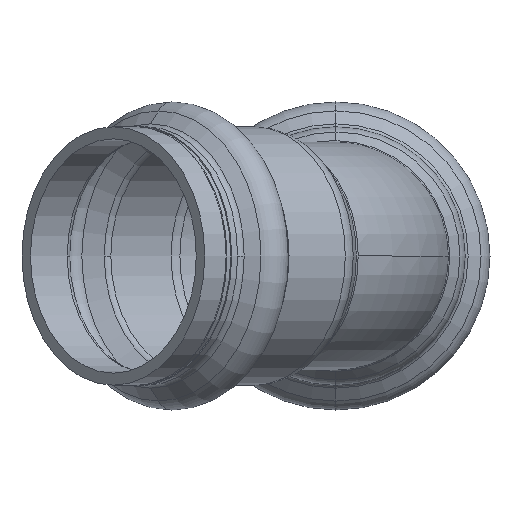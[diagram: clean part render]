
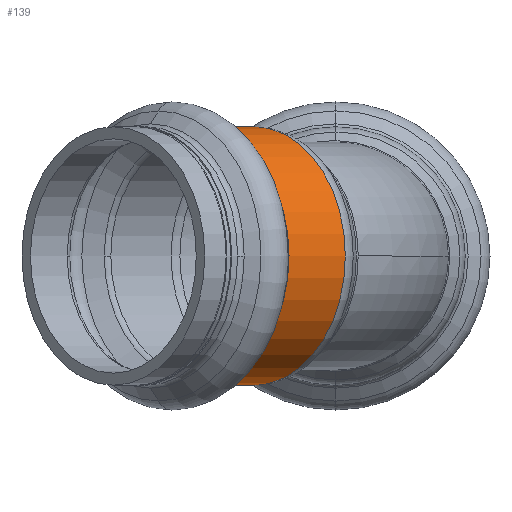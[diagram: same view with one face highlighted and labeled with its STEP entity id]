
A CAD part, left-side view. The second image highlights one B-rep face of the part: STEP entity #139.
In plain terms, the highlighted cylindrical face has radius 15.6 mm (diameter 31.2 mm), a partial arc.
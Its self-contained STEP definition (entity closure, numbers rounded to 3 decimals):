
#24 = DIRECTION ( 'NONE',  ( 0.707, 0.707, 0. ) ) ;
#80 = CYLINDRICAL_SURFACE ( 'NONE', #175, 15.6 ) ;
#139 = ADVANCED_FACE ( 'NONE', ( #2330 ), #80, .T. ) ;
#175 = AXIS2_PLACEMENT_3D ( 'NONE', #475, #504, #468 ) ;
#176 = CARTESIAN_POINT ( 'NONE',  ( -16.692, 16.692, 15.6 ) ) ;
#240 = AXIS2_PLACEMENT_3D ( 'NONE', #2253, #3855, #24 ) ;
#244 = EDGE_CURVE ( 'NONE', #947, #1180, #1969, .T. ) ;
#392 = ORIENTED_EDGE ( 'NONE', *, *, #1685, .T. ) ;
#468 = DIRECTION ( 'NONE',  ( 0., 0., -1. ) ) ;
#475 = CARTESIAN_POINT ( 'NONE',  ( -25.175, 25.175, 0. ) ) ;
#504 = DIRECTION ( 'NONE',  ( -0.707, 0.707, 0. ) ) ;
#591 = AXIS2_PLACEMENT_3D ( 'NONE', #3544, #3548, #3555 ) ;
#644 = ORIENTED_EDGE ( 'NONE', *, *, #1755, .F. ) ;
#669 = CARTESIAN_POINT ( 'NONE',  ( -9.899, 9.899, -15.6 ) ) ;
#904 = ORIENTED_EDGE ( 'NONE', *, *, #244, .F. ) ;
#918 = VERTEX_POINT ( 'NONE', #3065 ) ;
#947 = VERTEX_POINT ( 'NONE', #2463 ) ;
#1180 = VERTEX_POINT ( 'NONE', #669 ) ;
#1198 = CIRCLE ( 'NONE', #591, 15.6 ) ;
#1364 = CARTESIAN_POINT ( 'NONE',  ( -9.899, 9.899, 0. ) ) ;
#1367 = DIRECTION ( 'NONE',  ( 0.707, -0.707, 0. ) ) ;
#1392 = DIRECTION ( 'NONE',  ( 0., 0., -1. ) ) ;
#1466 = VECTOR ( 'NONE', #1721, 1000. ) ;
#1568 = EDGE_CURVE ( 'NONE', #947, #2085, #2252, .T. ) ;
#1598 = ORIENTED_EDGE ( 'NONE', *, *, #1568, .T. ) ;
#1685 = EDGE_CURVE ( 'NONE', #2085, #918, #1198, .T. ) ;
#1718 = CARTESIAN_POINT ( 'NONE',  ( -25.175, 25.175, 15.6 ) ) ;
#1721 = DIRECTION ( 'NONE',  ( -0.707, 0.707, 0. ) ) ;
#1755 = EDGE_CURVE ( 'NONE', #1180, #3407, #2421, .T. ) ;
#1776 = EDGE_CURVE ( 'NONE', #918, #3407, #3230, .T. ) ;
#1969 = CIRCLE ( 'NONE', #3606, 15.6 ) ;
#2085 = VERTEX_POINT ( 'NONE', #176 ) ;
#2252 = LINE ( 'NONE', #1718, #1466 ) ;
#2253 = CARTESIAN_POINT ( 'NONE',  ( -16.692, 16.692, 0. ) ) ;
#2330 = FACE_OUTER_BOUND ( 'NONE', #3026, .T. ) ;
#2421 = LINE ( 'NONE', #3836, #3318 ) ;
#2463 = CARTESIAN_POINT ( 'NONE',  ( -9.899, 9.899, 15.6 ) ) ;
#2620 = ORIENTED_EDGE ( 'NONE', *, *, #1776, .T. ) ;
#2996 = CARTESIAN_POINT ( 'NONE',  ( -16.692, 16.692, -15.6 ) ) ;
#3026 = EDGE_LOOP ( 'NONE', ( #904, #1598, #392, #2620, #644 ) ) ;
#3065 = CARTESIAN_POINT ( 'NONE',  ( -27.723, 5.661, 0. ) ) ;
#3230 = CIRCLE ( 'NONE', #240, 15.6 ) ;
#3318 = VECTOR ( 'NONE', #3843, 1000. ) ;
#3407 = VERTEX_POINT ( 'NONE', #2996 ) ;
#3544 = CARTESIAN_POINT ( 'NONE',  ( -16.692, 16.692, 0. ) ) ;
#3548 = DIRECTION ( 'NONE',  ( 0.707, -0.707, 0. ) ) ;
#3555 = DIRECTION ( 'NONE',  ( 0.707, 0.707, 0. ) ) ;
#3606 = AXIS2_PLACEMENT_3D ( 'NONE', #1364, #1367, #1392 ) ;
#3836 = CARTESIAN_POINT ( 'NONE',  ( -25.175, 25.175, -15.6 ) ) ;
#3843 = DIRECTION ( 'NONE',  ( -0.707, 0.707, 0. ) ) ;
#3855 = DIRECTION ( 'NONE',  ( 0.707, -0.707, 0. ) ) ;
